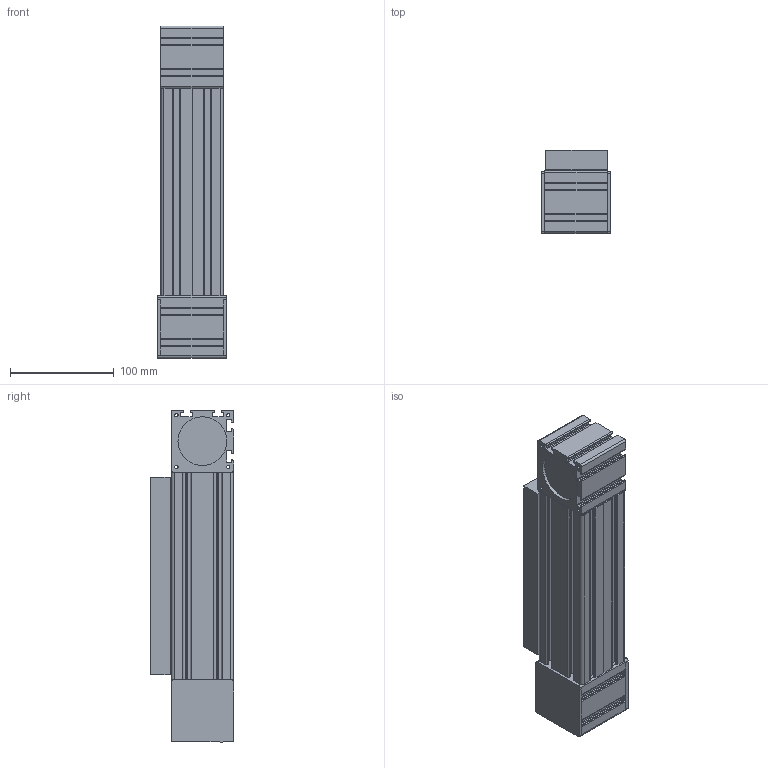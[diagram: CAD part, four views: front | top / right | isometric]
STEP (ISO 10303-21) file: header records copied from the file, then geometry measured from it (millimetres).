
FILE_DESCRIPTION((''),'2;1');
FILE_NAME('C:\Users\disegnatore3\Desktop\alberto_3d\MODELLI PER SITO WEB\3D\ASSI LINEARI\ML60\ML60HPC-12\FORMATO CAD\ML60HPC-12.stp','2016-10-14T17:24:27',('disegnatore3'),(''),'Autodesk Inventor 2012','Autodesk Inventor 2012','');
FILE_SCHEMA(('AUTOMOTIVE_DESIGN { 1 0 10303 214 1 1 1 1 }'));
Length unit declared in the file: millimetre
Products named in the file (5): ML60HPC-12; CR60HP-12; PR60HP; TM60HP; TR60HP
Assembly tree (4 placements, depth 2):
  ML60HPC-12
    CR60HP-12
    PR60HP
    TM60HP
    TR60HP
Bounding box: 66 x 80 x 320 mm (x, y, z)
Volume: 1236491.1 mm3; surface area: 173936.2 mm2
Topology: 4 solids, 4 shells, 339 faces, 959 edges, 630 vertices
Faces by surface type: plane 163, cylinder 160, cone 16
Full cylindrical faces by diameter (mm): 3.2 x4, 3.242 x8, 4.134 x8, 47 x2
Entity records: 11086 total; most frequent: DIRECTION 1925, CARTESIAN_POINT 1875, ORIENTED_EDGE 1818, EDGE_CURVE 909, AXIS2_PLACEMENT_3D 668, VERTEX_POINT 618, VECTOR 589, LINE 589
